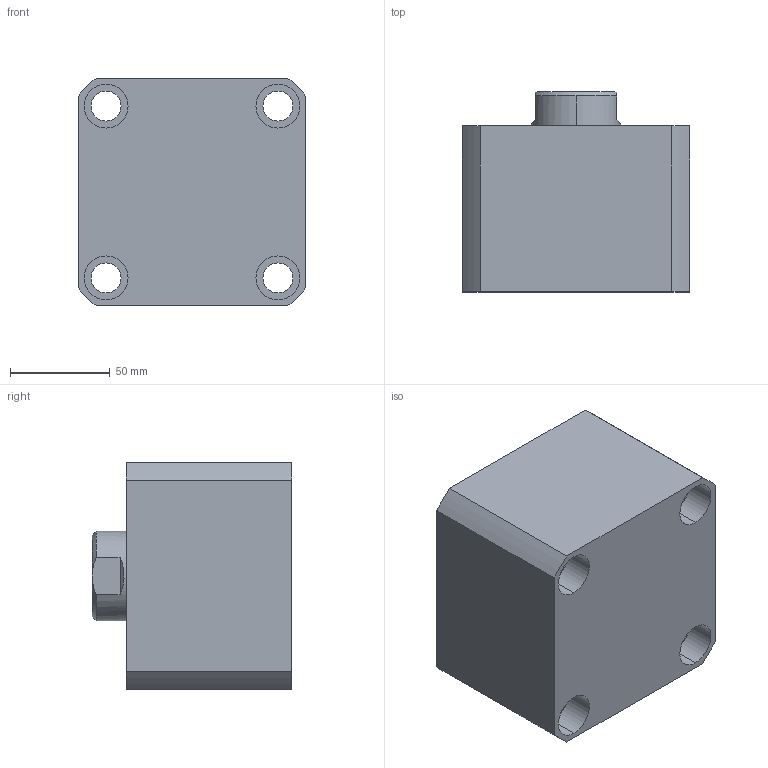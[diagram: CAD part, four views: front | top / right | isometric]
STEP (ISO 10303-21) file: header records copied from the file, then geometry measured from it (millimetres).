
FILE_DESCRIPTION (( 'STEP AP214' ), '1' );
FILE_NAME ('chtb-sdma80x5n_asm.STEP', '2018-05-29T01:36:12', ( 'Windows' ), ( 'Microsoft' ), 'SwSTEP 2.0', 'SolidWorks 2015', '' );
FILE_SCHEMA (( 'AUTOMOTIVE_DESIGN' ));
Length unit declared in the file: millimetre
Products named in the file (4): CHTB-SDMA80X5NBT; CHTB-SD80QG; CHTB-SD80X5NHSG; chtb-sdma80x5n_asm
Assembly tree (3 placements, depth 2):
  chtb-sdma80x5n_asm
    CHTB-SD80X5NHSG
    CHTB-SD80QG
    CHTB-SDMA80X5NBT
Bounding box: 114 x 100 x 114 mm (x, y, z)
Volume: 951996.8 mm3; surface area: 155556 mm2
Topology: 3 solids, 3 shells, 190 faces, 516 edges, 345 vertices
Faces by surface type: cylinder 107, plane 35, torus 18, cone 16, bspline 14
Entity records: 15170 total; most frequent: CARTESIAN_POINT 10463, ORIENTED_EDGE 1020, DIRECTION 879, EDGE_CURVE 510, AXIS2_PLACEMENT_3D 368, VERTEX_POINT 345, EDGE_LOOP 227, FACE_OUTER_BOUND 190
